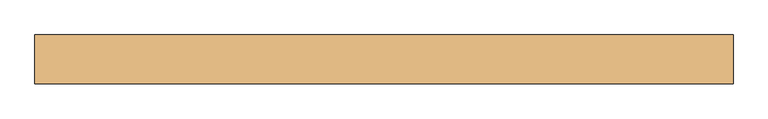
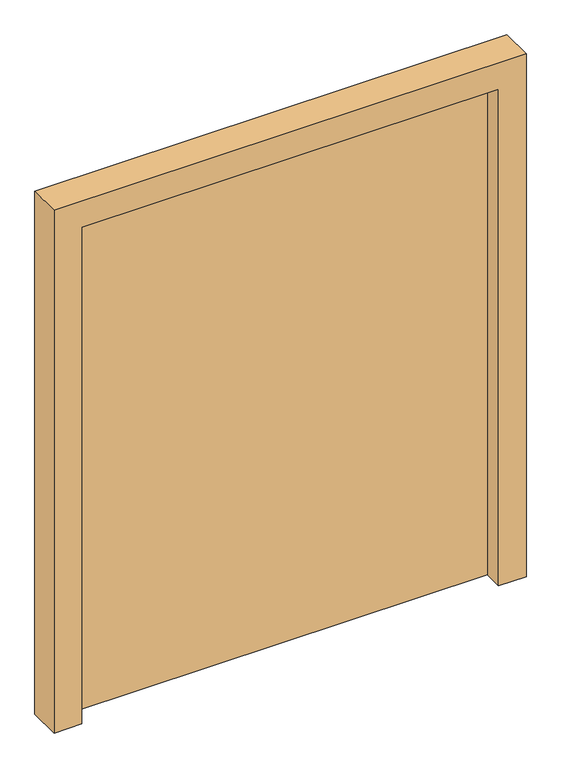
"""IFC4 building model written with IfcOpenShell, lengths in millimetres: door geometry, LOC_Pardörr assymetrisk : LOC_Pardörr assymetrisk Karm=100."""

from ifc_helpers import new_model, si_unit, frame, origin, origin_with_axes, place, context, project, spatial, polyline, outline, extrude, source, transform, mapped, element, save


def door_903a203e(model_context):
    return source(origin(), model_context, "Body", "SweptSolid", [
        extrude(outline(polyline([(750.0, 10.0), (-760.0, 10.0), (-760.0, 60.0), (750.0, 60.0), (750.0, 10.0)])), origin_with_axes(), (0.0, 0.0, 1.0), 1900.0),
        extrude(outline(polyline([(2000.0, 850.0), (2000.0, -860.0), (0.0, -860.0), (0.0, -760.0), (1900.0, -760.0), (1900.0, 750.0), (0.0, 750.0), (0.0, 850.0), (2000.0, 850.0)])), frame((0.0, -60.0, 0.0), z_axis=(0.0, 1.0, 0.0), x_axis=(0.0, 0.0, 1.0)), (0.0, 0.0, 1.0), 120.0),
    ])


if __name__ == "__main__":
    model = new_model("IFC4")
    model_context = context("Model", 3, world=origin())
    ifc_project = project(units=[si_unit("LENGTHUNIT", "METRE", prefix="MILLI")], contexts=[model_context])
    site = spatial("IfcSite", under=ifc_project)
    building = spatial("IfcBuilding", under=site)
    placement = place(None, origin())
    door_shape = door_903a203e(model_context)
    element("IfcDoor", 1, ObjectType="LOC_Pardörr assymetrisk : LOC_Pardörr assymetrisk Karm=100", at=placement, inside=building, context=model_context, shape_type="MappedRepresentation", body=[
        mapped(door_shape, transform((0.0, 0.0, 0.0), x_axis=(1.0, 0.0, 0.0), y_axis=(0.0, 1.0, 0.0), z_axis=(0.0, 0.0, 1.0))),
    ])
    save(model, "model.ifc")
